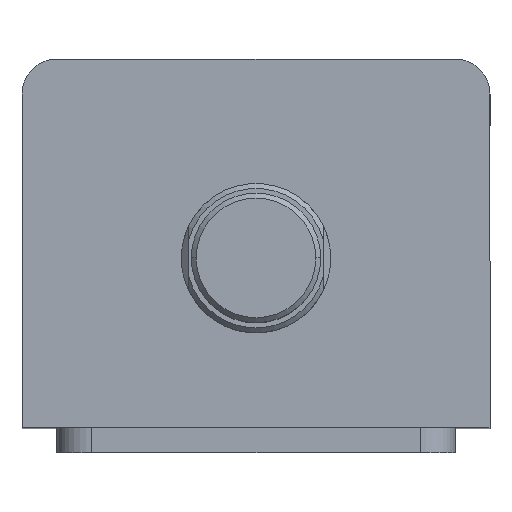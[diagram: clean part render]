
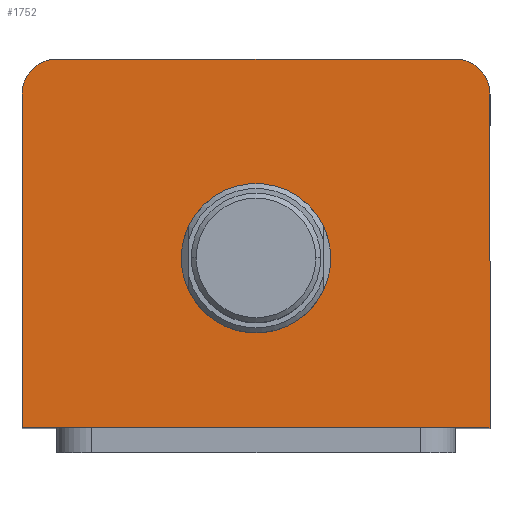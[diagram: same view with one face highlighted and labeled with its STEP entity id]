
A CAD part, top view. The second image highlights one B-rep face of the part: STEP entity #1752.
In plain terms, the highlighted planar face has unit normal (0, 0, 1).
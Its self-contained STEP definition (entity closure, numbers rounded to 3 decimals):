
#4 = AXIS2_PLACEMENT_3D ( 'NONE', #1321, #1317, #1316 ) ;
#148 = VERTEX_POINT ( 'NONE', #687 ) ;
#165 = VERTEX_POINT ( 'NONE', #547 ) ;
#177 = VERTEX_POINT ( 'NONE', #859 ) ;
#187 = VERTEX_POINT ( 'NONE', #612 ) ;
#383 = FACE_BOUND ( 'NONE', #2359, .T. ) ;
#387 = FACE_OUTER_BOUND ( 'NONE', #2363, .T. ) ;
#547 = CARTESIAN_POINT ( 'NONE',  ( 15., -3., 160. ) ) ;
#612 = CARTESIAN_POINT ( 'NONE',  ( 47., 30., 160. ) ) ;
#675 = DIRECTION ( 'NONE',  ( 1., 0., 0. ) ) ;
#676 = DIRECTION ( 'NONE',  ( 0., 0., 1. ) ) ;
#677 = CARTESIAN_POINT ( 'NONE',  ( 0., -3., 160. ) ) ;
#687 = CARTESIAN_POINT ( 'NONE',  ( 40., 37., 160. ) ) ;
#713 = DIRECTION ( 'NONE',  ( 1., 0., 0. ) ) ;
#724 = DIRECTION ( 'NONE',  ( 0., 0., 1. ) ) ;
#740 = CARTESIAN_POINT ( 'NONE',  ( 0., 0., 160. ) ) ;
#743 = PLANE ( 'NONE',  #1738 ) ;
#859 = CARTESIAN_POINT ( 'NONE',  ( -15., -3., 160. ) ) ;
#1014 = CIRCLE ( 'NONE', #1705, 15. ) ;
#1089 = LINE ( 'NONE', #1461, #1092 ) ;
#1092 = VECTOR ( 'NONE', #1458, 1000. ) ;
#1112 = LINE ( 'NONE', #1374, #1115 ) ;
#1115 = VECTOR ( 'NONE', #1368, 1000. ) ;
#1122 = LINE ( 'NONE', #1596, #1129 ) ;
#1129 = VECTOR ( 'NONE', #1595, 1000. ) ;
#1235 = CIRCLE ( 'NONE', #4, 15. ) ;
#1240 = CIRCLE ( 'NONE', #1289, 7. ) ;
#1250 = CIRCLE ( 'NONE', #1287, 7. ) ;
#1269 = LINE ( 'NONE', #2501, #1272 ) ;
#1272 = VECTOR ( 'NONE', #2500, 1000. ) ;
#1287 = AXIS2_PLACEMENT_3D ( 'NONE', #2663, #2662, #2653 ) ;
#1289 = AXIS2_PLACEMENT_3D ( 'NONE', #1462, #1471, #1351 ) ;
#1316 = DIRECTION ( 'NONE',  ( 1., 0., 0. ) ) ;
#1317 = DIRECTION ( 'NONE',  ( 0., 0., 1. ) ) ;
#1321 = CARTESIAN_POINT ( 'NONE',  ( 0., -3., 160. ) ) ;
#1325 = CARTESIAN_POINT ( 'NONE',  ( -47., 30., 160. ) ) ;
#1351 = DIRECTION ( 'NONE',  ( 1., 0., 0. ) ) ;
#1368 = DIRECTION ( 'NONE',  ( -1., 0., 0. ) ) ;
#1374 = CARTESIAN_POINT ( 'NONE',  ( -47., 37., 160. ) ) ;
#1458 = DIRECTION ( 'NONE',  ( 1., 0., 0. ) ) ;
#1461 = CARTESIAN_POINT ( 'NONE',  ( -47., -37., 160. ) ) ;
#1462 = CARTESIAN_POINT ( 'NONE',  ( 40., 30., 160. ) ) ;
#1471 = DIRECTION ( 'NONE',  ( 0., 0., 1. ) ) ;
#1595 = DIRECTION ( 'NONE',  ( 0., 1., 0. ) ) ;
#1596 = CARTESIAN_POINT ( 'NONE',  ( 47., 37., 160. ) ) ;
#1635 = CARTESIAN_POINT ( 'NONE',  ( -40., 37., 160. ) ) ;
#1642 = CARTESIAN_POINT ( 'NONE',  ( -47., -37., 160. ) ) ;
#1660 = CARTESIAN_POINT ( 'NONE',  ( 47., -37., 160. ) ) ;
#1705 = AXIS2_PLACEMENT_3D ( 'NONE', #677, #676, #675 ) ;
#1738 = AXIS2_PLACEMENT_3D ( 'NONE', #740, #724, #713 ) ;
#1752 = ADVANCED_FACE ( 'NONE', ( #383, #387 ), #743, .T. ) ;
#1848 = EDGE_CURVE ( 'NONE', #165, #177, #1014, .T. ) ;
#1896 = EDGE_CURVE ( 'NONE', #2433, #2421, #1089, .T. ) ;
#1909 = EDGE_CURVE ( 'NONE', #148, #2439, #1112, .T. ) ;
#2359 = EDGE_LOOP ( 'NONE', ( #2860, #2859 ) ) ;
#2363 = EDGE_LOOP ( 'NONE', ( #2858, #2857, #2856, #2855, #2854, #2853 ) ) ;
#2403 = VERTEX_POINT ( 'NONE', #1325 ) ;
#2421 = VERTEX_POINT ( 'NONE', #1660 ) ;
#2433 = VERTEX_POINT ( 'NONE', #1642 ) ;
#2439 = VERTEX_POINT ( 'NONE', #1635 ) ;
#2500 = DIRECTION ( 'NONE',  ( 0., -1., 0. ) ) ;
#2501 = CARTESIAN_POINT ( 'NONE',  ( -47., 37., 160. ) ) ;
#2653 = DIRECTION ( 'NONE',  ( 1., 0., 0. ) ) ;
#2662 = DIRECTION ( 'NONE',  ( 0., 0., 1. ) ) ;
#2663 = CARTESIAN_POINT ( 'NONE',  ( -40., 30., 160. ) ) ;
#2853 = ORIENTED_EDGE ( 'NONE', *, *, #3067, .T. ) ;
#2854 = ORIENTED_EDGE ( 'NONE', *, *, #2990, .T. ) ;
#2855 = ORIENTED_EDGE ( 'NONE', *, *, #1896, .T. ) ;
#2856 = ORIENTED_EDGE ( 'NONE', *, *, #3091, .T. ) ;
#2857 = ORIENTED_EDGE ( 'NONE', *, *, #3075, .T. ) ;
#2858 = ORIENTED_EDGE ( 'NONE', *, *, #1909, .T. ) ;
#2859 = ORIENTED_EDGE ( 'NONE', *, *, #3062, .F. ) ;
#2860 = ORIENTED_EDGE ( 'NONE', *, *, #1848, .F. ) ;
#2990 = EDGE_CURVE ( 'NONE', #2421, #187, #1122, .T. ) ;
#3062 = EDGE_CURVE ( 'NONE', #177, #165, #1235, .T. ) ;
#3067 = EDGE_CURVE ( 'NONE', #187, #148, #1240, .T. ) ;
#3075 = EDGE_CURVE ( 'NONE', #2439, #2403, #1250, .T. ) ;
#3091 = EDGE_CURVE ( 'NONE', #2403, #2433, #1269, .T. ) ;
